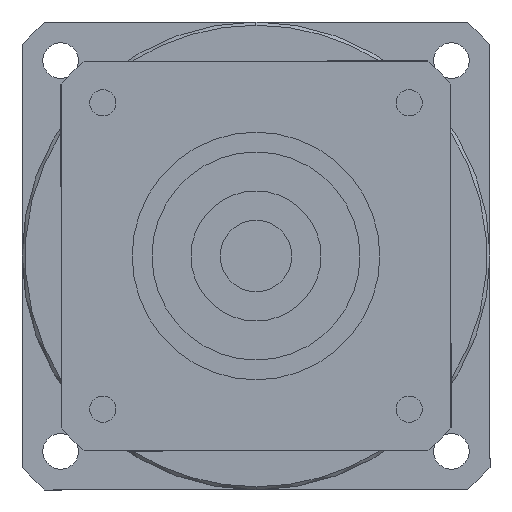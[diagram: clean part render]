
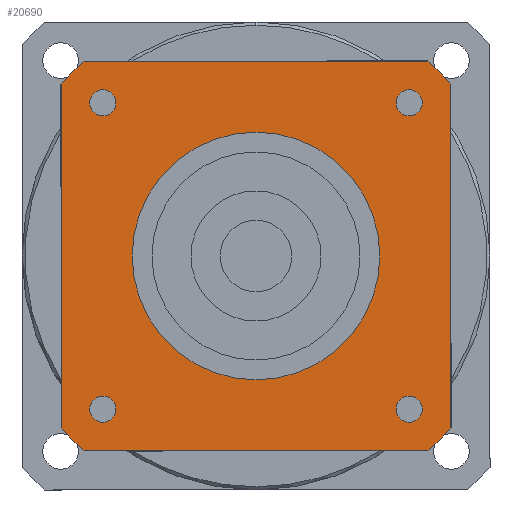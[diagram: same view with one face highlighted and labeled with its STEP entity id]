
A CAD part, left-side view. The second image highlights one B-rep face of the part: STEP entity #20690.
In plain terms, the highlighted planar face has unit normal (-1, 0, 0) as drawn and (0, 0, -1) by its records, which use the part's own axes.
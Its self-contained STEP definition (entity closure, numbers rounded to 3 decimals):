
#15250=CARTESIAN_POINT('',(26.458,30.,-90.));
#15260=VERTEX_POINT('',#15250);
#15290=CARTESIAN_POINT('',(0.,0.,
-90.));
#15300=DIRECTION('',(0.,0.,1.));
#15310=DIRECTION('',(0.,-1.,0.));
#15320=AXIS2_PLACEMENT_3D('',#15290,#15300,#15310);
#15330=CIRCLE('',#15320,40.);
#15340=CARTESIAN_POINT('',(30.,26.458,-90.));
#15350=VERTEX_POINT('',#15340);
#15360=EDGE_CURVE('',#15350,#15260,#15330,.T.);
#15670=CARTESIAN_POINT('',(26.458,-30.,-90.));
#15680=VERTEX_POINT('',#15670);
#15840=CARTESIAN_POINT('',(30.,-26.458,-90.));
#15850=VERTEX_POINT('',#15840);
#15880=CARTESIAN_POINT('',(0.,0.,
-90.));
#15890=DIRECTION('',(0.,0.,1.));
#15900=DIRECTION('',(0.,-1.,0.));
#15910=AXIS2_PLACEMENT_3D('',#15880,#15890,#15900);
#15920=CIRCLE('',#15910,40.);
#15930=EDGE_CURVE('',#15680,#15850,#15920,.T.);
#18090=CARTESIAN_POINT('',(30.,-30.,-90.));
#18100=DIRECTION('',(0.,1.,0.));
#18110=VECTOR('',#18100,1000.);
#18120=LINE('',#18090,#18110);
#18130=EDGE_CURVE('',#15850,#15350,#18120,.T.);
#18390=CARTESIAN_POINT('',(-26.458,30.,-90.));
#18400=VERTEX_POINT('',#18390);
#18430=CARTESIAN_POINT('',(30.,30.,-90.));
#18440=DIRECTION('',(-1.,0.,0.));
#18450=VECTOR('',#18440,1000.);
#18460=LINE('',#18430,#18450);
#18470=EDGE_CURVE('',#15260,#18400,#18460,.T.);
#18830=CARTESIAN_POINT('',(-30.,26.458,-90.));
#18840=VERTEX_POINT('',#18830);
#18870=CARTESIAN_POINT('',(0.,0.,
-90.));
#18880=DIRECTION('',(0.,0.,1.));
#18890=DIRECTION('',(0.,-1.,0.));
#18900=AXIS2_PLACEMENT_3D('',#18870,#18880,#18890);
#18910=CIRCLE('',#18900,40.);
#18920=EDGE_CURVE('',#18400,#18840,#18910,.T.);
#19260=CARTESIAN_POINT('',(-30.,-26.458,-90.));
#19270=VERTEX_POINT('',#19260);
#19350=CARTESIAN_POINT('',(-26.458,-30.,-90.));
#19360=VERTEX_POINT('',#19350);
#19390=CARTESIAN_POINT('',(0.,0.,
-90.));
#19400=DIRECTION('',(0.,0.,1.));
#19410=DIRECTION('',(0.,-1.,0.));
#19420=AXIS2_PLACEMENT_3D('',#19390,#19400,#19410);
#19430=CIRCLE('',#19420,40.);
#19440=EDGE_CURVE('',#19270,#19360,#19430,.T.);
#19490=CARTESIAN_POINT('',(-30.,30.,-90.));
#19500=DIRECTION('',(0.,0.,1.));
#19510=DIRECTION('',(-1.,0.,0.));
#19520=AXIS2_PLACEMENT_3D('',#19490,#19500,#19510);
#19530=PLANE('',#19520);
#19540=CARTESIAN_POINT('',(23.571,-23.571,-90.));
#19550=DIRECTION('',(0.,0.,-1.));
#19560=DIRECTION('',(1.,0.,0.));
#19570=AXIS2_PLACEMENT_3D('',#19540,#19550,#19560);
#19580=CIRCLE('',#19570,2.);
#19590=CARTESIAN_POINT('',(25.571,-23.571,-90.));
#19600=VERTEX_POINT('',#19590);
#19610=CARTESIAN_POINT('',(23.571,-25.571,-90.));
#19620=VERTEX_POINT('',#19610);
#19630=EDGE_CURVE('',#19600,#19620,#19580,.T.);
#19640=ORIENTED_EDGE('',*,*,#19630,.F.);
#19650=CARTESIAN_POINT('',(23.571,-21.571,-90.));
#19660=VERTEX_POINT('',#19650);
#19670=EDGE_CURVE('',#19620,#19660,#19580,.T.);
#19680=ORIENTED_EDGE('',*,*,#19670,.F.);
#19690=EDGE_CURVE('',#19660,#19600,#19580,.T.);
#19700=ORIENTED_EDGE('',*,*,#19690,.F.);
#19710=EDGE_LOOP('',(#19700,#19680,#19640));
#19720=FACE_BOUND('',#19710,.T.);
#19730=CARTESIAN_POINT('',(23.571,23.571,-90.));
#19740=DIRECTION('',(0.,0.,-1.));
#19750=DIRECTION('',(0.,1.,0.));
#19760=AXIS2_PLACEMENT_3D('',#19730,#19740,#19750);
#19770=CIRCLE('',#19760,2.);
#19780=CARTESIAN_POINT('',(23.571,25.571,-90.));
#19790=VERTEX_POINT('',#19780);
#19800=CARTESIAN_POINT('',(25.571,23.571,-90.));
#19810=VERTEX_POINT('',#19800);
#19820=EDGE_CURVE('',#19790,#19810,#19770,.T.);
#19830=ORIENTED_EDGE('',*,*,#19820,.F.);
#19840=CARTESIAN_POINT('',(21.571,23.571,-90.));
#19850=VERTEX_POINT('',#19840);
#19860=EDGE_CURVE('',#19810,#19850,#19770,.T.);
#19870=ORIENTED_EDGE('',*,*,#19860,.F.);
#19880=EDGE_CURVE('',#19850,#19790,#19770,.T.);
#19890=ORIENTED_EDGE('',*,*,#19880,.F.);
#19900=EDGE_LOOP('',(#19890,#19870,#19830));
#19910=FACE_BOUND('',#19900,.T.);
#19920=CARTESIAN_POINT('',(-23.571,23.571,-90.));
#19930=DIRECTION('',(0.,0.,-1.));
#19940=DIRECTION('',(-1.,0.,0.));
#19950=AXIS2_PLACEMENT_3D('',#19920,#19930,#19940);
#19960=CIRCLE('',#19950,2.);
#19970=CARTESIAN_POINT('',(-25.571,23.571,-90.));
#19980=VERTEX_POINT('',#19970);
#19990=CARTESIAN_POINT('',(-23.571,25.571,-90.));
#20000=VERTEX_POINT('',#19990);
#20010=EDGE_CURVE('',#19980,#20000,#19960,.T.);
#20020=ORIENTED_EDGE('',*,*,#20010,.F.);
#20030=CARTESIAN_POINT('',(-23.571,21.571,-90.));
#20040=VERTEX_POINT('',#20030);
#20050=EDGE_CURVE('',#20000,#20040,#19960,.T.);
#20060=ORIENTED_EDGE('',*,*,#20050,.F.);
#20070=EDGE_CURVE('',#20040,#19980,#19960,.T.);
#20080=ORIENTED_EDGE('',*,*,#20070,.F.);
#20090=EDGE_LOOP('',(#20080,#20060,#20020));
#20100=FACE_BOUND('',#20090,.T.);
#20110=CARTESIAN_POINT('',(-23.571,-23.571,-90.));
#20120=DIRECTION('',(0.,0.,-1.));
#20130=DIRECTION('',(0.,-1.,0.));
#20140=AXIS2_PLACEMENT_3D('',#20110,#20120,#20130);
#20150=CIRCLE('',#20140,2.);
#20160=CARTESIAN_POINT('',(-23.571,-25.571,-90.));
#20170=VERTEX_POINT('',#20160);
#20180=CARTESIAN_POINT('',(-25.571,-23.571,-90.));
#20190=VERTEX_POINT('',#20180);
#20200=EDGE_CURVE('',#20170,#20190,#20150,.T.);
#20210=ORIENTED_EDGE('',*,*,#20200,.F.);
#20220=CARTESIAN_POINT('',(-21.571,-23.571,-90.));
#20230=VERTEX_POINT('',#20220);
#20240=EDGE_CURVE('',#20190,#20230,#20150,.T.);
#20250=ORIENTED_EDGE('',*,*,#20240,.F.);
#20260=EDGE_CURVE('',#20230,#20170,#20150,.T.);
#20270=ORIENTED_EDGE('',*,*,#20260,.F.);
#20280=EDGE_LOOP('',(#20270,#20250,#20210));
#20290=FACE_BOUND('',#20280,.T.);
#20300=ORIENTED_EDGE('',*,*,#19440,.F.);
#20310=CARTESIAN_POINT('',(-30.,-30.,-90.));
#20320=DIRECTION('',(1.,0.,0.));
#20330=VECTOR('',#20320,1000.);
#20340=LINE('',#20310,#20330);
#20350=EDGE_CURVE('',#19360,#15680,#20340,.T.);
#20360=ORIENTED_EDGE('',*,*,#20350,.F.);
#20370=ORIENTED_EDGE('',*,*,#15930,.F.);
#20380=ORIENTED_EDGE('',*,*,#18130,.F.);
#20390=ORIENTED_EDGE('',*,*,#15360,.F.);
#20400=ORIENTED_EDGE('',*,*,#18470,.F.);
#20410=ORIENTED_EDGE('',*,*,#18920,.F.);
#20420=CARTESIAN_POINT('',(-30.,30.,-90.));
#20430=DIRECTION('',(0.,-1.,0.));
#20440=VECTOR('',#20430,1000.);
#20450=LINE('',#20420,#20440);
#20460=EDGE_CURVE('',#18840,#19270,#20450,.T.);
#20470=ORIENTED_EDGE('',*,*,#20460,.F.);
#20480=EDGE_LOOP('',(#20470,#20410,#20400,#20390,#20380,#20370,#20360,
#20300));
#20490=FACE_OUTER_BOUND('',#20480,.T.);
#20500=CARTESIAN_POINT('',(0.,0.,
-90.));
#20510=DIRECTION('',(0.,0.,1.));
#20520=DIRECTION('',(0.,-1.,0.));
#20530=AXIS2_PLACEMENT_3D('',#20500,#20510,#20520);
#20540=CIRCLE('',#20530,19.05);
#20550=CARTESIAN_POINT('',(19.05,0.,-90.));
#20560=VERTEX_POINT('',#20550);
#20570=CARTESIAN_POINT('',(-19.05,0.,-90.));
#20580=VERTEX_POINT('',#20570);
#20590=EDGE_CURVE('',#20560,#20580,#20540,.T.);
#20600=ORIENTED_EDGE('',*,*,#20590,.T.);
#20610=CARTESIAN_POINT('',(0.,-19.05,-90.));
#20620=VERTEX_POINT('',#20610);
#20630=EDGE_CURVE('',#20620,#20560,#20540,.T.);
#20640=ORIENTED_EDGE('',*,*,#20630,.T.);
#20650=EDGE_CURVE('',#20580,#20620,#20540,.T.);
#20660=ORIENTED_EDGE('',*,*,#20650,.T.);
#20670=EDGE_LOOP('',(#20660,#20640,#20600));
#20680=FACE_BOUND('',#20670,.T.);
#20690=ADVANCED_FACE('',(#19720,#19910,#20100,#20290,#20490,#20680),
#19530,.F.);
